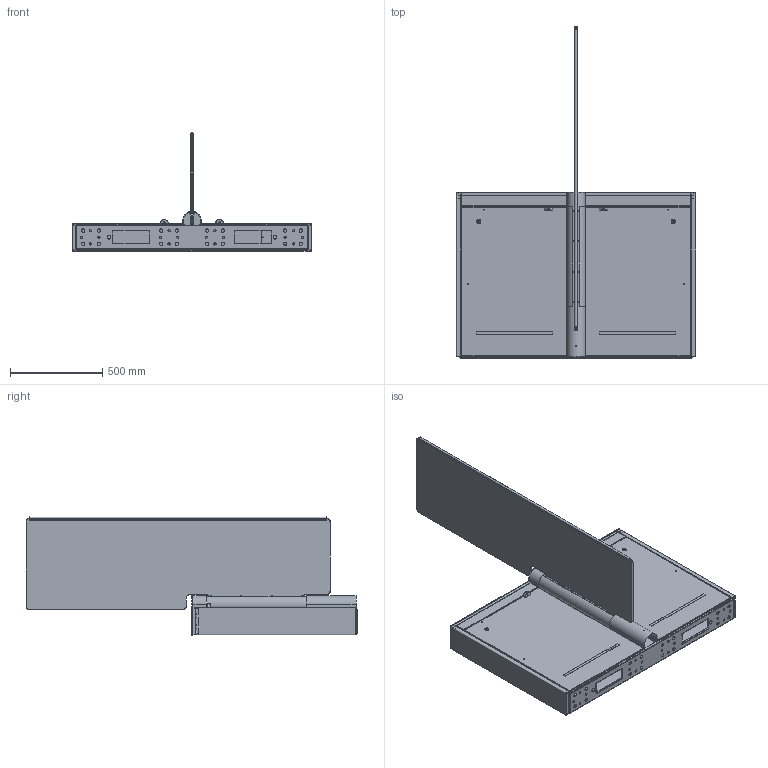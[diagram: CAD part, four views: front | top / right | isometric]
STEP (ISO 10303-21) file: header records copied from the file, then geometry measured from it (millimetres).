
FILE_DESCRIPTION (( 'STEP AP214' ), '1' );
FILE_NAME ('スターン_サイド【ワイド】.STEP', '2023-02-27T00:29:25', ( 'cadcl' ), ( 'Hewlett-Packard Company' ), 'SwSTEP 2.0', 'SolidWorks 2022', '' );
FILE_SCHEMA (( 'AUTOMOTIVE_DESIGN' ));
Length unit declared in the file: millimetre
Products named in the file (44): 201-06327-66; 201-06327-59; 301-06197-18_施錠; 201-06327-78_施錠; 201-06330-29; 201-06290-16; 301-06197-17_施錠; 201-06330-12; T05-00009-00; 201-06330-34; 201-06329-11; 201-06329-01; 201-06330-15; 201-06505-06_閉扉; Z01-00712-00; 201-06327-22; R33-00022-00_干渉回避用; 201-06327-46; 201-06327-00; 201-06330-26; 201-06505-46; 201-06327-48; 201-05997-02; Z01-00419-00; 201-06327-55; 201-06327-72_施錠; 201-06327-62; 201-06327-86; 201-06329-09; 201-06327-51; 201-06329-10; 201-06290-15_面発光あり; 201-06327-21; 201-06327-73; 201-06327-54; 201-06206-03_ガラス（ｔ１２）取付時; 201-06329-13; スターン_サイド【ワイド】; 201-06290-02; 201-06330-22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
Assembly tree (52 placements, depth 4):
  R33-00022-00_干渉回避用
  201-06505-46
  スターン_サイド【ワイド】
    201-06505-06_閉扉
      201-06330-15
        201-06327-00
      201-06327-48
        201-06327-46
        201-06329-09
      201-06327-51
        201-06327-49
        201-06329-09
      201-06330-29
        201-06330-26
        201-06329-13
      201-06327-72_施錠
        201-06327-66
        201-06329-11
        201-06329-10
        301-06197-17_施錠
        T05-00009-00
        Z01-00419-00
      201-06327-78_施錠
        201-06327-73
        201-06329-11
        201-06329-10
        301-06197-18_施錠
        Z01-00419-00
        T05-00009-00
      201-06330-12
        201-06330-22
      201-06327-21
      201-06327-22
      201-06327-54
      201-06327-55
      201-06330-34
      201-06327-59
        201-06290-02
      Z01-00712-00  x4
    201-06327-59
      201-06290-02
    201-06327-61
      201-05997-02
    201-06327-62
    201-06329-01
    201-06206-03_ガラス（ｔ１２）取付時
    Z01-00712-00  x4
    201-06327-86
      201-06290-16
        201-06290-15_面発光あり
  R33-00101-00_干渉回避用
Bounding box: 1300 x 1799.75 x 641.01 mm (x, y, z)
Volume: 15327648.6 mm3; surface area: 8469522.1 mm2
Topology: 40 solids, 40 shells, 2327 faces, 5965 edges, 3753 vertices
Faces by surface type: plane 1362, cylinder 756, cone 125, bspline 68, sphere 16
Entity records: 66253 total; most frequent: CARTESIAN_POINT 13761, ORIENTED_EDGE 10508, DIRECTION 10306, EDGE_CURVE 5254, VECTOR 3674, LINE 3674, AXIS2_PLACEMENT_3D 3316, VERTEX_POINT 3301
